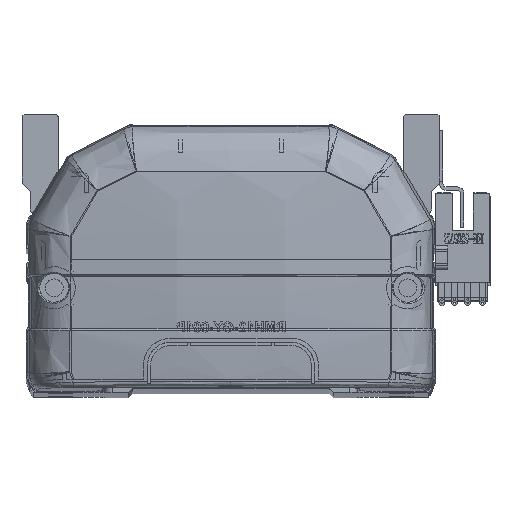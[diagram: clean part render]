
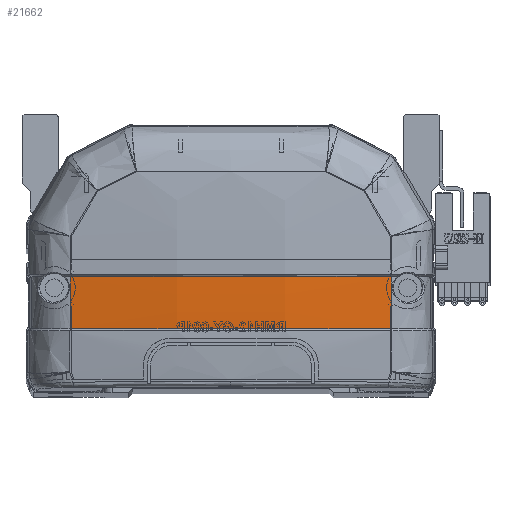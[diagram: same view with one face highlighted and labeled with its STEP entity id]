
A CAD part, top view. The second image highlights one B-rep face of the part: STEP entity #21662.
In plain terms, the highlighted free-form (B-spline) face has degree [3, 3] with [4, 4] control points.
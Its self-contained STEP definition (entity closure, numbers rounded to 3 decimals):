
#1685 = ORIENTED_EDGE ( 'NONE', *, *, #4029, .T. ) ;
#1895 = CARTESIAN_POINT ( 'NONE',  ( 39.963, 28.706, -6.372 ) ) ;
#2447 = CARTESIAN_POINT ( 'NONE',  ( 39.963, 28.706, -6.372 ) ) ;
#2551 = CARTESIAN_POINT ( 'NONE',  ( -13.598, 19.918, -10.302 ) ) ;
#2735 = CARTESIAN_POINT ( 'NONE',  ( -40.461, 20.111, -6.066 ) ) ;
#3603 = EDGE_CURVE ( 'NONE', #42386, #30735, #26276, .T. ) ;
#4029 = EDGE_CURVE ( 'NONE', #42386, #34252, #11730, .T. ) ;
#5484 = FACE_OUTER_BOUND ( 'NONE', #38066, .T. ) ;
#6675 = CARTESIAN_POINT ( 'NONE',  ( 13.598, 19.918, -10.302 ) ) ;
#7013 = B_SPLINE_CURVE_WITH_KNOTS ( 'NONE', 3,
 ( #10998, #18831, #33900, #37993 ),
 .UNSPECIFIED., .F., .F.,
 ( 4, 4 ),
 ( 0., 1. ),
 .UNSPECIFIED. ) ;
#9653 = CARTESIAN_POINT ( 'NONE',  ( 13.375, 28.707, -9.468 ) ) ;
#9812 = CARTESIAN_POINT ( 'NONE',  ( 40.461, 15.757, -5.8 ) ) ;
#10415 = CARTESIAN_POINT ( 'NONE',  ( -6.692, 15.83, -8.984 ) ) ;
#10998 = CARTESIAN_POINT ( 'NONE',  ( -39.963, 28.706, -6.372 ) ) ;
#11205 = CARTESIAN_POINT ( 'NONE',  ( 39.985, 15.83, -5.879 ) ) ;
#11730 = B_SPLINE_CURVE_WITH_KNOTS ( 'NONE', 3,
 ( #17411, #32140, #13587, #2447 ),
 .UNSPECIFIED., .F., .F.,
 ( 4, 4 ),
 ( 0., 1. ),
 .UNSPECIFIED. ) ;
#13000 = ORIENTED_EDGE ( 'NONE', *, *, #46805, .F. ) ;
#13537 = CARTESIAN_POINT ( 'NONE',  ( -13.373, 28.707, -9.468 ) ) ;
#13587 = CARTESIAN_POINT ( 'NONE',  ( 39.966, 24.413, -6.306 ) ) ;
#14293 = CARTESIAN_POINT ( 'NONE',  ( -39.985, 15.83, -5.879 ) ) ;
#14630 = CARTESIAN_POINT ( 'NONE',  ( -36.679, 15.83, -6.395 ) ) ;
#14821 = B_SPLINE_CURVE_WITH_KNOTS ( 'NONE', 3,
 ( #28570, #24410, #13537, #9653, #28052, #1895 ),
 .UNSPECIFIED., .F., .F.,
 ( 4, 2, 4 ),
 ( 0., 0.5, 1. ),
 .UNSPECIFIED. ) ;
#17411 = CARTESIAN_POINT ( 'NONE',  ( 39.985, 15.83, -5.879 ) ) ;
#18171 = CARTESIAN_POINT ( 'NONE',  ( -13.598, 15.499, -10.032 ) ) ;
#18831 = CARTESIAN_POINT ( 'NONE',  ( -39.966, 24.412, -6.306 ) ) ;
#18932 = CARTESIAN_POINT ( 'NONE',  ( 39.963, 28.706, -6.372 ) ) ;
#21292 = CARTESIAN_POINT ( 'NONE',  ( -13.598, 28.769, -10.535 ) ) ;
#21662 = ADVANCED_FACE ( 'NONE', ( #5484 ), #31461, .F. ) ;
#21725 = CARTESIAN_POINT ( 'NONE',  ( -13.384, 15.83, -8.724 ) ) ;
#22044 = CARTESIAN_POINT ( 'NONE',  ( -26.721, 15.83, -7.624 ) ) ;
#24410 = CARTESIAN_POINT ( 'NONE',  ( -26.748, 28.706, -8.432 ) ) ;
#25503 = CARTESIAN_POINT ( 'NONE',  ( -33.365, 15.83, -6.848 ) ) ;
#25563 = CARTESIAN_POINT ( 'NONE',  ( 40.461, 24.47, -6.231 ) ) ;
#26276 = B_SPLINE_CURVE_WITH_KNOTS ( 'NONE', 3,
 ( #29169, #48505, #36801, #10415, #21725, #37284, #22044, #25503, #14630, #14293 ),
 .UNSPECIFIED., .F., .F.,
 ( 4, 2, 2, 2, 4 ),
 ( 0., 0.04, 0.06, 0.07, 0.08 ),
 .UNSPECIFIED. ) ;
#28052 = CARTESIAN_POINT ( 'NONE',  ( 26.749, 28.706, -8.432 ) ) ;
#28570 = CARTESIAN_POINT ( 'NONE',  ( -39.963, 28.706, -6.372 ) ) ;
#29071 = CARTESIAN_POINT ( 'NONE',  ( -13.598, 24.342, -10.47 ) ) ;
#29169 = CARTESIAN_POINT ( 'NONE',  ( 39.985, 15.83, -5.879 ) ) ;
#29227 = CARTESIAN_POINT ( 'NONE',  ( -40.461, 24.47, -6.231 ) ) ;
#29620 = VERTEX_POINT ( 'NONE', #48509 ) ;
#30735 = VERTEX_POINT ( 'NONE', #39917 ) ;
#31461 =( BOUNDED_SURFACE ( )  B_SPLINE_SURFACE ( 3, 3, ( 
 ( #9812, #36703, #25563, #40136 ),
 ( #36530, #6675, #44566, #40300 ),
 ( #18171, #2551, #29071, #21292 ),
 ( #48071, #2735, #29227, #40623 ) ),
 .UNSPECIFIED., .F., .F., .F. ) 
 B_SPLINE_SURFACE_WITH_KNOTS ( ( 4, 4 ),
 ( 4, 4 ),
 ( 0., 1. ),
 ( 0., 1. ),
 .UNSPECIFIED. ) 
 GEOMETRIC_REPRESENTATION_ITEM ( )  RATIONAL_B_SPLINE_SURFACE ( (
 ( 1., 1., 1., 1.),
 ( 0.992, 0.992, 0.992, 0.992),
 ( 0.992, 0.992, 0.992, 0.992),
 ( 1., 1., 1., 1.) ) ) 
 REPRESENTATION_ITEM ( '' )  SURFACE ( )  );
#32140 = CARTESIAN_POINT ( 'NONE',  ( 39.973, 20.12, -6.142 ) ) ;
#33900 = CARTESIAN_POINT ( 'NONE',  ( -39.973, 20.118, -6.142 ) ) ;
#34252 = VERTEX_POINT ( 'NONE', #18932 ) ;
#36530 = CARTESIAN_POINT ( 'NONE',  ( 13.598, 15.499, -10.032 ) ) ;
#36703 = CARTESIAN_POINT ( 'NONE',  ( 40.461, 20.111, -6.066 ) ) ;
#36801 = CARTESIAN_POINT ( 'NONE',  ( 13.38, 15.83, -8.984 ) ) ;
#37284 = CARTESIAN_POINT ( 'NONE',  ( -23.389, 15.83, -7.947 ) ) ;
#37993 = CARTESIAN_POINT ( 'NONE',  ( -39.985, 15.83, -5.879 ) ) ;
#38066 = EDGE_LOOP ( 'NONE', ( #1685, #13000, #46457, #39152 ) ) ;
#39152 = ORIENTED_EDGE ( 'NONE', *, *, #3603, .F. ) ;
#39917 = CARTESIAN_POINT ( 'NONE',  ( -39.985, 15.83, -5.879 ) ) ;
#40136 = CARTESIAN_POINT ( 'NONE',  ( 40.461, 28.832, -6.296 ) ) ;
#40300 = CARTESIAN_POINT ( 'NONE',  ( 13.598, 28.769, -10.535 ) ) ;
#40623 = CARTESIAN_POINT ( 'NONE',  ( -40.461, 28.832, -6.296 ) ) ;
#40671 = EDGE_CURVE ( 'NONE', #29620, #30735, #7013, .T. ) ;
#42386 = VERTEX_POINT ( 'NONE', #11205 ) ;
#44566 = CARTESIAN_POINT ( 'NONE',  ( 13.598, 24.342, -10.47 ) ) ;
#46457 = ORIENTED_EDGE ( 'NONE', *, *, #40671, .T. ) ;
#46805 = EDGE_CURVE ( 'NONE', #29620, #34252, #14821, .T. ) ;
#48071 = CARTESIAN_POINT ( 'NONE',  ( -40.461, 15.757, -5.8 ) ) ;
#48505 = CARTESIAN_POINT ( 'NONE',  ( 26.761, 15.83, -7.945 ) ) ;
#48509 = CARTESIAN_POINT ( 'NONE',  ( -39.963, 28.706, -6.372 ) ) ;
